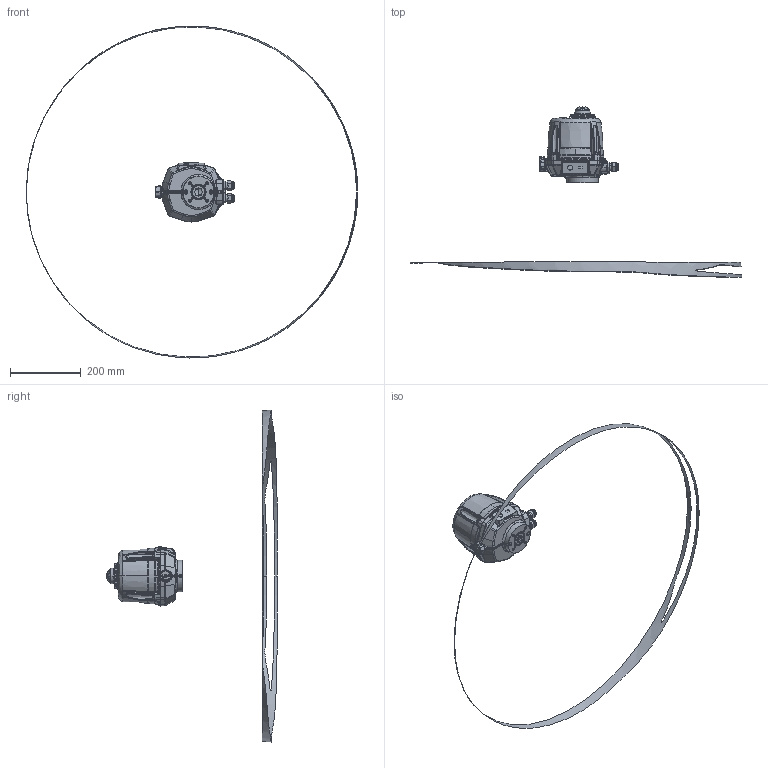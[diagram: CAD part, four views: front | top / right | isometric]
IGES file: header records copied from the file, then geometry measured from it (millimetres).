
Start section: SolidWorks IGES file using analytic representation for surfaces
Global section: file name: S:\Assemblages 3D produits\01-Actionneurs électriques\VR75-70A-G00\Carters longs\VR75-70A-G00 allongé.IGS; native system: SolidWorks 2017; preprocessor: SolidWorks 2017; author: caillatl; date: 211214.111508; units: millimetre
Bounding box: 938.22 x 483.53 x 939.47 mm (x, y, z)
Surface area: 217207.4 mm2 (no closed solid volume)
Topology: 0 solids, 0 shells, 1346 faces, 16146 edges, 16122 vertices
Faces by surface type: bspline 857, revolution 489
